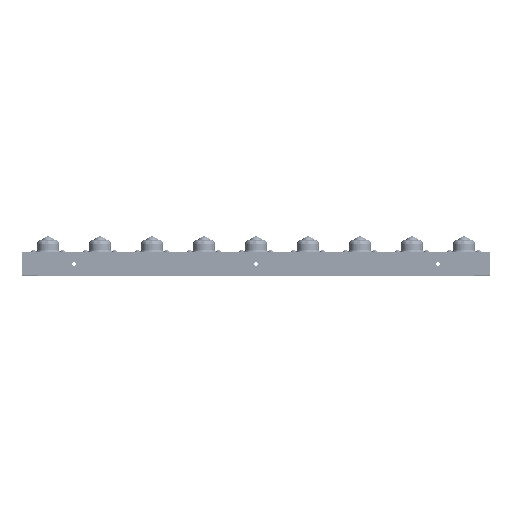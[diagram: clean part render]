
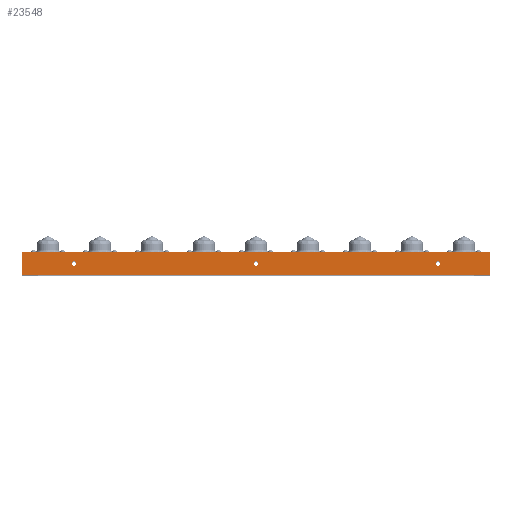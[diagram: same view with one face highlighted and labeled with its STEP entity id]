
A CAD part, top view. The second image highlights one B-rep face of the part: STEP entity #23548.
In plain terms, the highlighted planar face has unit normal (0, 0, 1).
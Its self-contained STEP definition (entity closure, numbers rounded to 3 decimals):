
#432 = CIRCLE ( 'NONE', #21713, 4.5 ) ;
#707 = EDGE_LOOP ( 'NONE', ( #6286, #4735, #6865, #10253 ) ) ;
#826 = EDGE_CURVE ( 'NONE', #11574, #16683, #9804, .T. ) ;
#900 = DIRECTION ( 'NONE',  ( 1., 0., 0. ) ) ;
#1884 = DIRECTION ( 'NONE',  ( 1., 0., 0. ) ) ;
#2059 = CIRCLE ( 'NONE', #23390, 4.5 ) ;
#2367 = CARTESIAN_POINT ( 'NONE',  ( 0., 21.5, 450. ) ) ;
#2622 = FACE_BOUND ( 'NONE', #3021, .T. ) ;
#2948 = AXIS2_PLACEMENT_3D ( 'NONE', #19408, #8055, #21305 ) ;
#3021 = EDGE_LOOP ( 'NONE', ( #15677, #6626 ) ) ;
#3267 = EDGE_LOOP ( 'NONE', ( #23793, #19976 ) ) ;
#3738 = EDGE_CURVE ( 'NONE', #11944, #11865, #21575, .T. ) ;
#3799 = VECTOR ( 'NONE', #23175, 1000. ) ;
#4263 = CARTESIAN_POINT ( 'NONE',  ( 450., 43., 450. ) ) ;
#4735 = ORIENTED_EDGE ( 'NONE', *, *, #19631, .F. ) ;
#4941 = AXIS2_PLACEMENT_3D ( 'NONE', #7422, #20684, #9337 ) ;
#5420 = VERTEX_POINT ( 'NONE', #23249 ) ;
#5651 = VERTEX_POINT ( 'NONE', #17870 ) ;
#6264 = CARTESIAN_POINT ( 'NONE',  ( -350., 21.5, 450. ) ) ;
#6286 = ORIENTED_EDGE ( 'NONE', *, *, #10879, .T. ) ;
#6317 = DIRECTION ( 'NONE',  ( 0., -1., 0. ) ) ;
#6443 = VECTOR ( 'NONE', #12600, 1000. ) ;
#6626 = ORIENTED_EDGE ( 'NONE', *, *, #7198, .F. ) ;
#6865 = ORIENTED_EDGE ( 'NONE', *, *, #3738, .F. ) ;
#7198 = EDGE_CURVE ( 'NONE', #16683, #11574, #432, .T. ) ;
#7226 = VERTEX_POINT ( 'NONE', #15153 ) ;
#7422 = CARTESIAN_POINT ( 'NONE',  ( 350., 21.5, 450. ) ) ;
#7505 = CARTESIAN_POINT ( 'NONE',  ( 4.5, 21.5, 450. ) ) ;
#7624 = LINE ( 'NONE', #10084, #17707 ) ;
#7988 = ORIENTED_EDGE ( 'NONE', *, *, #18859, .F. ) ;
#8055 = DIRECTION ( 'NONE',  ( 0., 0., 1. ) ) ;
#8192 = DIRECTION ( 'NONE',  ( 1., 0., 0. ) ) ;
#8266 = PLANE ( 'NONE',  #23609 ) ;
#8865 = LINE ( 'NONE', #17482, #3799 ) ;
#9337 = DIRECTION ( 'NONE',  ( 1., 0., 0. ) ) ;
#9777 = DIRECTION ( 'NONE',  ( 0., 0., 1. ) ) ;
#9804 = CIRCLE ( 'NONE', #22116, 4.5 ) ;
#10084 = CARTESIAN_POINT ( 'NONE',  ( -450., 43., 450. ) ) ;
#10253 = ORIENTED_EDGE ( 'NONE', *, *, #12504, .T. ) ;
#10412 = VERTEX_POINT ( 'NONE', #23856 ) ;
#10676 = AXIS2_PLACEMENT_3D ( 'NONE', #6264, #19541, #8192 ) ;
#10879 = EDGE_CURVE ( 'NONE', #5420, #10412, #8865, .T. ) ;
#11574 = VERTEX_POINT ( 'NONE', #7505 ) ;
#11865 = VERTEX_POINT ( 'NONE', #4263 ) ;
#11888 = CIRCLE ( 'NONE', #2948, 4.5 ) ;
#11944 = VERTEX_POINT ( 'NONE', #12055 ) ;
#12055 = CARTESIAN_POINT ( 'NONE',  ( -450., 43., 450. ) ) ;
#12065 = DIRECTION ( 'NONE',  ( -1., 0., 0. ) ) ;
#12200 = EDGE_CURVE ( 'NONE', #14662, #17060, #16816, .T. ) ;
#12283 = DIRECTION ( 'NONE',  ( 0., 0., 1. ) ) ;
#12353 = CIRCLE ( 'NONE', #10676, 4.5 ) ;
#12504 = EDGE_CURVE ( 'NONE', #11944, #5420, #7624, .T. ) ;
#12600 = DIRECTION ( 'NONE',  ( 1., 0., 0. ) ) ;
#13249 = DIRECTION ( 'NONE',  ( 0., 0., 1. ) ) ;
#14099 = CARTESIAN_POINT ( 'NONE',  ( -4.5, 21.5, 450. ) ) ;
#14160 = EDGE_CURVE ( 'NONE', #7226, #5651, #12353, .T. ) ;
#14490 = CARTESIAN_POINT ( 'NONE',  ( -450., 43., 450. ) ) ;
#14662 = VERTEX_POINT ( 'NONE', #20581 ) ;
#15153 = CARTESIAN_POINT ( 'NONE',  ( -345.5, 21.5, 450. ) ) ;
#15677 = ORIENTED_EDGE ( 'NONE', *, *, #826, .F. ) ;
#15873 = EDGE_LOOP ( 'NONE', ( #20538, #7988 ) ) ;
#16683 = VERTEX_POINT ( 'NONE', #14099 ) ;
#16743 = CARTESIAN_POINT ( 'NONE',  ( 354.5, 21.5, 450. ) ) ;
#16816 = CIRCLE ( 'NONE', #4941, 4.5 ) ;
#17060 = VERTEX_POINT ( 'NONE', #16743 ) ;
#17181 = FACE_BOUND ( 'NONE', #3267, .T. ) ;
#17482 = CARTESIAN_POINT ( 'NONE',  ( -450., 0., 450. ) ) ;
#17707 = VECTOR ( 'NONE', #19534, 1000. ) ;
#17870 = CARTESIAN_POINT ( 'NONE',  ( -354.5, 21.5, 450. ) ) ;
#18377 = FACE_BOUND ( 'NONE', #15873, .T. ) ;
#18859 = EDGE_CURVE ( 'NONE', #5651, #7226, #2059, .T. ) ;
#19408 = CARTESIAN_POINT ( 'NONE',  ( 350., 21.5, 450. ) ) ;
#19534 = DIRECTION ( 'NONE',  ( 0., -1., 0. ) ) ;
#19541 = DIRECTION ( 'NONE',  ( 0., 0., 1. ) ) ;
#19585 = CARTESIAN_POINT ( 'NONE',  ( 450., 43., 450. ) ) ;
#19631 = EDGE_CURVE ( 'NONE', #11865, #10412, #22817, .T. ) ;
#19976 = ORIENTED_EDGE ( 'NONE', *, *, #12200, .F. ) ;
#20538 = ORIENTED_EDGE ( 'NONE', *, *, #14160, .F. ) ;
#20581 = CARTESIAN_POINT ( 'NONE',  ( 345.5, 21.5, 450. ) ) ;
#20684 = DIRECTION ( 'NONE',  ( 0., 0., 1. ) ) ;
#21107 = CARTESIAN_POINT ( 'NONE',  ( -350., 21.5, 450. ) ) ;
#21305 = DIRECTION ( 'NONE',  ( 1., 0., 0. ) ) ;
#21510 = CARTESIAN_POINT ( 'NONE',  ( -450., 43., 450. ) ) ;
#21575 = LINE ( 'NONE', #14490, #6443 ) ;
#21713 = AXIS2_PLACEMENT_3D ( 'NONE', #2367, #13249, #1884 ) ;
#22116 = AXIS2_PLACEMENT_3D ( 'NONE', #23619, #12283, #900 ) ;
#22208 = FACE_OUTER_BOUND ( 'NONE', #707, .T. ) ;
#22212 = VECTOR ( 'NONE', #6317, 1000. ) ;
#22511 = EDGE_CURVE ( 'NONE', #17060, #14662, #11888, .T. ) ;
#22817 = LINE ( 'NONE', #19585, #22212 ) ;
#22991 = DIRECTION ( 'NONE',  ( 1., 0., 0. ) ) ;
#23175 = DIRECTION ( 'NONE',  ( 1., 0., 0. ) ) ;
#23249 = CARTESIAN_POINT ( 'NONE',  ( -450., 0., 450. ) ) ;
#23390 = AXIS2_PLACEMENT_3D ( 'NONE', #21107, #9777, #22991 ) ;
#23391 = DIRECTION ( 'NONE',  ( 0., 0., -1. ) ) ;
#23548 = ADVANCED_FACE ( 'NONE', ( #18377, #2622, #22208, #17181 ), #8266, .F. ) ;
#23609 = AXIS2_PLACEMENT_3D ( 'NONE', #21510, #23391, #12065 ) ;
#23619 = CARTESIAN_POINT ( 'NONE',  ( 0., 21.5, 450. ) ) ;
#23793 = ORIENTED_EDGE ( 'NONE', *, *, #22511, .F. ) ;
#23856 = CARTESIAN_POINT ( 'NONE',  ( 450., 0., 450. ) ) ;
